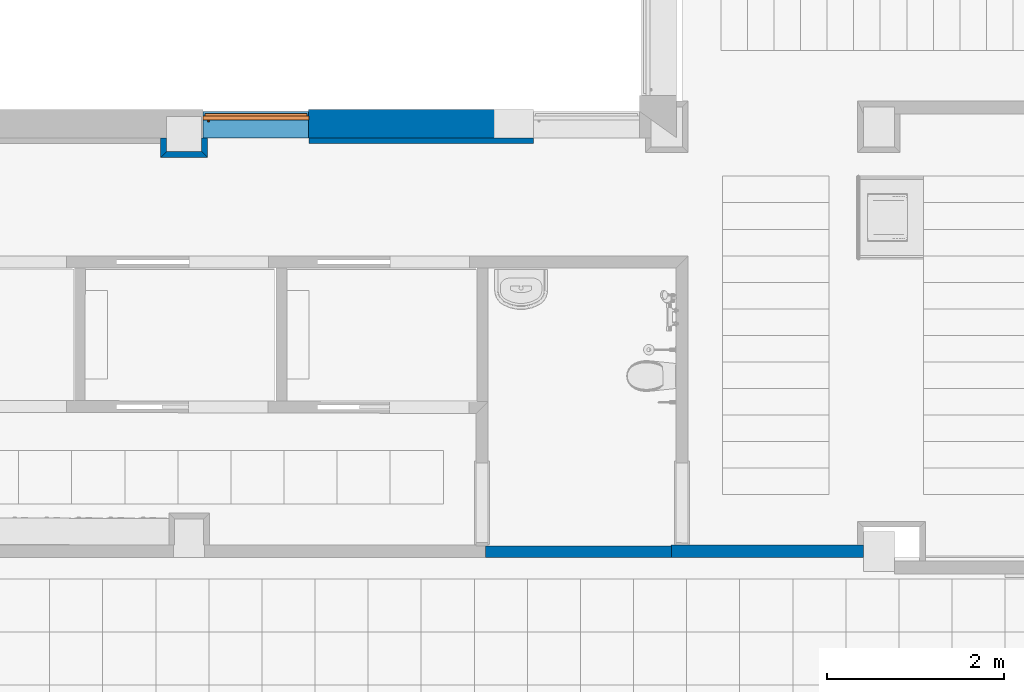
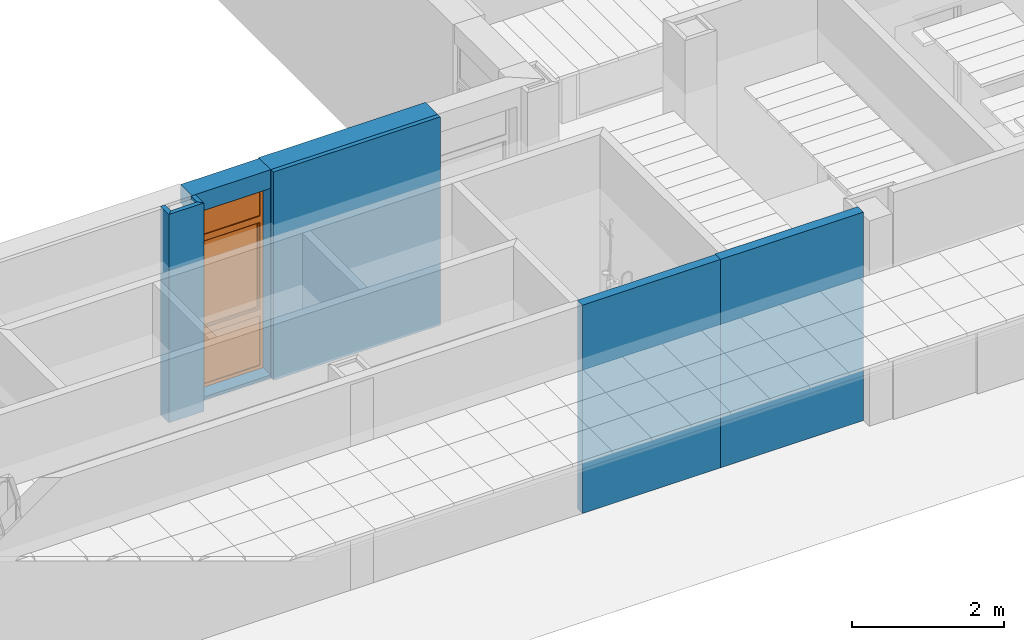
# One storey, part 31 of 68: 8 walls, 1 proxy, 1 opening.
"""IFC2X3 building model written with IfcOpenShell, lengths in millimetres."""

import ifcopenshell
import ifcopenshell.guid

model = None  # the IFC model being written
_history = None  # IfcOwnerHistory: only IFC2X3 demands one
_inside = {}  # id of a spatial element -> (the spatial element, [elements in it])
_under = {}  # id of a project, library or spatial element -> (it, [spatial elements below it])
_declared = {}  # id of a project -> (the project, [libraries it declares])
_typed = {}  # id of a type object -> (the type object, [elements of that type])
_made_of = {}  # id of a material, layer set ... -> (it, [elements and type objects made of it])


def new_model(schema):
    """Start an empty IFC model of exactly this schema.

    Asked for "IFC4X3", IfcOpenShell would pick the latest addendum, in which some entities
    have other attributes; the version numbers below select the first issue.
    IFC2X3 requires an IfcOwnerHistory on every rooted entity: one is made here for all.
    """
    global model, _history
    if schema == "IFC4X3":
        model = ifcopenshell.file(schema_version=(4, 3, 0, 0))
    else:
        model = ifcopenshell.file(schema=schema)
    _inside.clear()
    _under.clear()
    _declared.clear()
    _typed.clear()
    _made_of.clear()
    _history = None
    if model.schema == "IFC2X3":
        org = make("IfcOrganization", Name="unknown")
        user = make(
            "IfcPersonAndOrganization",
            ThePerson=make("IfcPerson", FamilyName="unknown"),
            TheOrganization=org,
        )
        app = make(
            "IfcApplication",
            ApplicationDeveloper=org,
            Version="unknown",
            ApplicationFullName="unknown",
            ApplicationIdentifier="unknown",
        )
        _history = make(
            "IfcOwnerHistory",
            OwningUser=user,
            OwningApplication=app,
            ChangeAction="ADDED",
            CreationDate=0,
        )
    return model


def make(cls, **values):
    """One entity of the class cls with the attributes given. An attribute that is None is left unset."""
    return model.create_entity(
        cls, **{name: value for name, value in values.items() if value is not None}
    )


def entity(cls, *values):
    """Any entity or typed value of the class cls, its attributes in the order of the schema. None: left unset."""
    e = model.create_entity(cls)
    for i, value in enumerate(values):
        if value is not None:
            e[i] = value
    return e


def rooted(cls, **values):
    """An entity with a GlobalId (a new one), such as an element, a storey or a relation."""
    return make(cls, GlobalId=ifcopenshell.guid.new(), OwnerHistory=_history, **values)


def si_unit(unit_type, name, prefix=None):
    """IfcSIUnit, for example si_unit("LENGTHUNIT", "METRE", prefix="MILLI")."""
    return make("IfcSIUnit", UnitType=unit_type, Prefix=prefix, Name=name)


def converted_unit(unit_type, name, factor, base, dimensions=None, offset=None):
    """IfcConversionBasedUnit, such as the inch: factor (a typed value) times the base unit."""
    return make(
        "IfcConversionBasedUnit"
        if offset is None
        else "IfcConversionBasedUnitWithOffset",
        ConversionOffset=offset,
        Dimensions=None
        if dimensions is None
        else entity("IfcDimensionalExponents", *dimensions),
        UnitType=unit_type,
        Name=name,
        ConversionFactor=make(
            "IfcMeasureWithUnit", ValueComponent=factor, UnitComponent=base
        ),
    )


def derived_unit(unit_type, elements):
    """IfcDerivedUnit: a product of units, each with its exponent."""
    return make(
        "IfcDerivedUnit",
        Elements=[
            make("IfcDerivedUnitElement", Unit=unit, Exponent=power)
            for unit, power in elements
        ],
        UnitType=unit_type,
    )


def money_unit(currency):
    """IfcMonetaryUnit."""
    return make("IfcMonetaryUnit", Currency=currency)


def assignment(units):
    """IfcUnitAssignment: the units of a project."""
    return None if units is None else make("IfcUnitAssignment", Units=units)


def point(xyz):
    """IfcCartesianPoint."""
    return None if xyz is None else make("IfcCartesianPoint", Coordinates=xyz)


def direction(xyz):
    """IfcDirection."""
    return None if xyz is None else make("IfcDirection", DirectionRatios=xyz)


def frame(location, z_axis=None, x_axis=None):
    """IfcAxis2Placement3D, a coordinate frame: its origin and axes. An axis left out is left unset."""
    return make(
        "IfcAxis2Placement3D",
        Location=point(location),
        Axis=direction(z_axis),
        RefDirection=direction(x_axis),
    )


def frame_2d(location, x_axis=None):
    """IfcAxis2Placement2D, a coordinate frame in the plane: its origin and x axis."""
    return make(
        "IfcAxis2Placement2D", Location=point(location), RefDirection=direction(x_axis)
    )


def origin_with_axes():
    """The frame at (0, 0, 0) with the z axis (0, 0, 1) and the x axis (1, 0, 0) written out."""
    return frame((0.0, 0.0, 0.0), z_axis=(0.0, 0.0, 1.0), x_axis=(1.0, 0.0, 0.0))


def origin_2d_with_axis():
    """The frame at (0, 0) in the plane with the x axis (1, 0) written out."""
    return frame_2d((0.0, 0.0), x_axis=(1.0, 0.0))


def place(relative_to, where):
    """IfcLocalPlacement: puts the frame where relative to a parent placement (None: the world)."""
    return make(
        "IfcLocalPlacement", PlacementRelTo=relative_to, RelativePlacement=where
    )


def context(
    kind, dimensions, precision=None, world=None, true_north=None, identifier=None
):
    """IfcGeometricRepresentationContext, for example the 3D "Model" context."""
    return make(
        "IfcGeometricRepresentationContext",
        ContextIdentifier=identifier,
        ContextType=kind,
        CoordinateSpaceDimension=dimensions,
        Precision=precision,
        WorldCoordinateSystem=world,
        TrueNorth=true_north,
    )


def subcontext(parent, identifier, kind, view, scale=None):
    """IfcGeometricRepresentationSubContext, for example "Body" below "Model"."""
    return make(
        "IfcGeometricRepresentationSubContext",
        ContextIdentifier=identifier,
        ContextType=kind,
        ParentContext=parent,
        TargetScale=scale,
        TargetView=view,
    )


def project(units=None, contexts=None):
    """IfcProject with its units and contexts."""
    return rooted(
        "IfcProject",
        Name="project",
        RepresentationContexts=contexts,
        UnitsInContext=assignment(units),
    )


def spatial(cls, under=None, at=None, **own):
    """A site, building, storey or space (cls), placed at a placement, below another one or the project."""
    s = rooted(cls, ObjectPlacement=at, **own)
    if under is not None:
        _under.setdefault(under.id(), (under, []))[1].append(s)
    return s


def polyline(points):
    """IfcPolyline through the points."""
    return make("IfcPolyline", Points=[point(p) for p in points])


def profile(cls, at=None, kind="AREA", **sizes):
    """A parametric profile (cls). Its sizes go by their IFC names, for example OverallWidth=200.0."""
    return make(cls, ProfileType=kind, Position=at, **sizes)


def rectangle(**sizes):
    """IfcRectangleProfileDef."""
    return profile("IfcRectangleProfileDef", **sizes)


def outline(outer, holes=None, kind="AREA"):
    """IfcArbitraryClosedProfileDef: a profile drawn as a closed curve; with holes, ...WithVoids."""
    if holes is None:
        return make("IfcArbitraryClosedProfileDef", ProfileType=kind, OuterCurve=outer)
    return make(
        "IfcArbitraryProfileDefWithVoids",
        ProfileType=kind,
        OuterCurve=outer,
        InnerCurves=holes,
    )


def extrude(swept, where, along, depth):
    """IfcExtrudedAreaSolid: the profile swept, set in the frame where, extruded along a direction by depth."""
    return make(
        "IfcExtrudedAreaSolid",
        SweptArea=swept,
        Position=where,
        ExtrudedDirection=direction(along),
        Depth=depth,
    )


def faces_of(points, faces, orient=None, outer=None):
    """IfcFace entities. A face is a list of loops; a loop is a list of indices into points, from 0.

    orient and outer hold one flag for each loop. By default every Orientation is true, the
    first loop of a face is its IfcFaceOuterBound and the others are IfcFaceBound.
    """
    made = []
    for i, loops in enumerate(faces):
        bounds = []
        for j, loop in enumerate(loops):
            is_outer = j == 0 if outer is None else outer[i][j]
            bounds.append(
                make(
                    "IfcFaceOuterBound" if is_outer else "IfcFaceBound",
                    Bound=make("IfcPolyLoop", Polygon=[points[k] for k in loop]),
                    Orientation=True if orient is None else orient[i][j],
                )
            )
        made.append(make("IfcFace", Bounds=bounds))
    return made


def open_shell(faces, orient=None, outer=None):
    """The faces of one IfcOpenShell. surface_model builds it on its shared points."""
    return ("IfcOpenShell", faces, orient, outer)


def faceted_brep(points, faces, orient=None, outer=None, voids=None):
    """IfcFacetedBrep: a solid bounded by flat faces; with voids (closed shells), ...WithVoids."""
    shared = [point(p) for p in points]
    hull = make("IfcClosedShell", CfsFaces=faces_of(shared, faces, orient, outer))
    if voids is None:
        return make("IfcFacetedBrep", Outer=hull)
    return make(
        "IfcFacetedBrepWithVoids",
        Outer=hull,
        Voids=[
            make(cls, CfsFaces=faces_of(shared, fs, o, b)) for cls, fs, o, b in voids
        ],
    )


def surface_model(cls, points, shells):
    """IfcFaceBasedSurfaceModel or IfcShellBasedSurfaceModel (cls): surfaces that need not close."""
    shared = [point(p) for p in points]
    made = [make(c, CfsFaces=faces_of(shared, fs, o, b)) for c, fs, o, b in shells]
    if cls == "IfcFaceBasedSurfaceModel":
        return make(cls, FbsmFaces=made)
    return make(cls, SbsmBoundary=made)


def shape(context_of_items, identifier, shape_type, items):
    """IfcShapeRepresentation: the items that make up one representation, for example the "Body"."""
    return make(
        "IfcShapeRepresentation",
        ContextOfItems=context_of_items,
        RepresentationIdentifier=identifier,
        RepresentationType=shape_type,
        Items=items,
    )


def source(mapping_origin, context_of_items, identifier, shape_type, items):
    """IfcRepresentationMap: a shape defined once, which mapped items show again and again."""
    return make(
        "IfcRepresentationMap",
        MappingOrigin=mapping_origin,
        MappedRepresentation=shape(context_of_items, identifier, shape_type, items),
    )


def transform(
    local_origin,
    x_axis=None,
    y_axis=None,
    z_axis=None,
    scale=None,
    scale2=None,
    scale3=None,
    uniform=True,
):
    """IfcCartesianTransformationOperator3D, or its non-uniform kind. x_axis, y_axis, z_axis: its Axis1, 2, 3."""
    if uniform:
        return make(
            "IfcCartesianTransformationOperator3D",
            Axis1=direction(x_axis),
            Axis2=direction(y_axis),
            LocalOrigin=point(local_origin),
            Scale=scale,
            Axis3=direction(z_axis),
        )
    return make(
        "IfcCartesianTransformationOperator3DnonUniform",
        Axis1=direction(x_axis),
        Axis2=direction(y_axis),
        LocalOrigin=point(local_origin),
        Scale=scale,
        Axis3=direction(z_axis),
        Scale2=scale2,
        Scale3=scale3,
    )


def mapped(mapping_source, mapping_target):
    """IfcMappedItem: shows the shape of a source again, moved by a transform."""
    return make(
        "IfcMappedItem", MappingSource=mapping_source, MappingTarget=mapping_target
    )


def material(Name=None, Category=None):
    """IfcMaterial."""
    return make("IfcMaterial", Name=Name, Category=Category)


def layer(
    of_material, thickness, ventilated=None, Name=None, Category=None, Priority=None
):
    """IfcMaterialLayer: one layer of a wall or slab, of a material (None: an air gap)."""
    return make(
        "IfcMaterialLayer",
        Material=of_material,
        LayerThickness=thickness,
        IsVentilated=ventilated,
        Name=Name,
        Category=Category,
        Priority=Priority,
    )


def layer_set(layers, Name=None):
    """IfcMaterialLayerSet."""
    return make("IfcMaterialLayerSet", MaterialLayers=layers, LayerSetName=Name)


def layer_usage(for_layer_set, set_direction, sense, offset, extent=None):
    """IfcMaterialLayerSetUsage: how a layer set lies in its element."""
    return make(
        "IfcMaterialLayerSetUsage",
        ForLayerSet=for_layer_set,
        LayerSetDirection=set_direction,
        DirectionSense=sense,
        OffsetFromReferenceLine=offset,
        ReferenceExtent=extent,
    )


def made_of(thing, what):
    """Note that an element or type object is made of a material, layer set ...; save() writes the relation."""
    if what is not None:
        _made_of.setdefault(what.id(), (what, []))[1].append(thing)
    return thing


def type_object(cls, material=None, **own):
    """A type object (cls), such as IfcWallType, which elements share."""
    return made_of(rooted(cls, **own), material)


def element(
    cls,
    number,
    at=None,
    inside=None,
    cuts=None,
    type_object=None,
    material=None,
    context=None,
    identifier="Body",
    shape_type=None,
    held_by="IfcProductDefinitionShape",
    body=None,
    shapes=None,
    **own,
):
    """One element of the class cls, such as IfcWall. Its Tag is "e" and its number.

    at: its placement. inside: the storey or other place that contains it. cuts: it is an
    opening in that element (IfcRelVoidsElement). A single representation is given by context,
    identifier, shape_type and body (its items); several are given by shapes. held_by: the class
    of the entity that holds the representations. save() writes the other relations.
    """
    e = rooted(cls, Tag="e%d" % number, ObjectPlacement=at, **own)
    if body is not None:
        shapes = [shape(context, identifier, shape_type, body)]
    if shapes is not None:
        e.Representation = make(held_by, Representations=shapes)
    if inside is not None:
        _inside.setdefault(inside.id(), (inside, []))[1].append(e)
    if cuts is not None:
        rooted(
            "IfcRelVoidsElement", RelatingBuildingElement=cuts, RelatedOpeningElement=e
        )
    if type_object is not None:
        _typed.setdefault(type_object.id(), (type_object, []))[1].append(e)
    return made_of(e, material)


def fill(opening, filler):
    """IfcRelFillsElement: the door or window that sits in an opening."""
    return rooted(
        "IfcRelFillsElement",
        RelatingOpeningElement=opening,
        RelatedBuildingElement=filler,
    )


def aggregate(whole, parts):
    """IfcRelAggregates: a whole, such as a stair, and the parts it consists of."""
    return rooted("IfcRelAggregates", RelatingObject=whole, RelatedObjects=parts)


def save(model, path):
    """Write the relations noted so far, then the file.

    IfcRelAggregates (storeys below a building ...), IfcRelContainedInSpatialStructure (elements
    in a storey), IfcRelDefinesByType, IfcRelAssociatesMaterial and IfcRelDeclares: one each for
    every whole, place, type object, material and project.
    """
    for whole, parts in _under.values():
        aggregate(whole, parts)
    for where, things in _inside.values():
        rooted(
            "IfcRelContainedInSpatialStructure",
            RelatedElements=things,
            RelatingStructure=where,
        )
    for kind, things in _typed.values():
        rooted("IfcRelDefinesByType", RelatedObjects=things, RelatingType=kind)
    for what, things in _made_of.values():
        rooted("IfcRelAssociatesMaterial", RelatedObjects=things, RelatingMaterial=what)
    for by, libraries in _declared.values():
        rooted("IfcRelDeclares", RelatingContext=by, RelatedDefinitions=libraries)
    model.write(path)


model = new_model("IFC2X3")

# Units and contexts
model_context = context("Model", 3, precision=0.01, world=origin_with_axes(), true_north=direction((0.0, 1.0)))
body_context = subcontext(model_context, "Body", "Model", "MODEL_VIEW")
ifc_project = project(units=[si_unit("LENGTHUNIT", "METRE", prefix="MILLI"), si_unit("AREAUNIT", "SQUARE_METRE"), si_unit("VOLUMEUNIT", "CUBIC_METRE"), converted_unit("PLANEANGLEUNIT", "DEGREE", entity("IfcPlaneAngleMeasure", 0.0174532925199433), si_unit("PLANEANGLEUNIT", "RADIAN"), dimensions=[0, 0, 0, 0, 0, 0, 0]), money_unit("USD"), converted_unit("TIMEUNIT", "Year", entity("IfcTimeMeasure", 31557600.0), si_unit("TIMEUNIT", "SECOND"), dimensions=[0, 0, 1, 0, 0, 0, 0]), si_unit("MASSUNIT", "GRAM", prefix="KILO"), si_unit("THERMODYNAMICTEMPERATUREUNIT", "DEGREE_CELSIUS"), si_unit("LUMINOUSINTENSITYUNIT", "LUMEN"), si_unit("ENERGYUNIT", "JOULE", prefix="MEGA"), derived_unit("THERMALCONDUCTANCEUNIT", [(si_unit("POWERUNIT", "WATT"), 1), (si_unit("LENGTHUNIT", "METRE"), -1), (si_unit("THERMODYNAMICTEMPERATUREUNIT", "KELVIN"), -1)]), derived_unit("SPECIFICHEATCAPACITYUNIT", [(si_unit("ENERGYUNIT", "JOULE"), 1), (si_unit("MASSUNIT", "GRAM", prefix="KILO"), -1), (si_unit("THERMODYNAMICTEMPERATUREUNIT", "KELVIN"), -1)]), derived_unit("MASSDENSITYUNIT", [(si_unit("MASSUNIT", "GRAM", prefix="KILO"), 1), (si_unit("VOLUMEUNIT", "CUBIC_METRE"), -1)])], contexts=[model_context])

# Site, building, storey
site_placement = place(None, origin_with_axes())
site = spatial("IfcSite", under=ifc_project, at=site_placement, Name="Sitio", CompositionType="ELEMENT")
building_placement = place(site_placement, origin_with_axes())
building = spatial("IfcBuilding", under=site, at=building_placement, Name="Construcción", CompositionType="ELEMENT")
storey_placement = place(building_placement, origin_with_axes())
storey = spatial("IfcBuildingStorey", under=building, at=storey_placement, Name="PLANTA 1ª", CompositionType="ELEMENT", Elevation=0.0)

# Wall, opening, proxy
ifc_material_1 = material(Name="ARQ_AM246_Arrebossat_De_Guix")
ifc_layer_1 = layer(ifc_material_1, 20.0, ventilated="UNKNOWN")
ifc_material_2 = material(Name="ARQ_CE217_Gero")
ifc_layer_2 = layer(ifc_material_2, 110.0, ventilated="UNKNOWN")
ifc_material_3 = material(Name="ARQ_AI031_Aillament_Poliestireno expandido EPS")
ifc_layer_3 = layer(ifc_material_3, 100.0, ventilated="UNKNOWN")
ifc_material_4 = material(Name="ARQ_CE218_Ceramic")
ifc_layer_4 = layer(ifc_material_4, 50.0, ventilated="UNKNOWN")
ifc_layer_5 = layer(ifc_material_1, 20.0, ventilated="UNKNOWN")
ifc_layer_set_1 = layer_set([ifc_layer_1, ifc_layer_2, ifc_layer_3, ifc_layer_4, ifc_layer_5], Name="façana pati CR3 (ampit)")
ifc_layer_usage_1 = layer_usage(ifc_layer_set_1, "AXIS2", "POSITIVE", -300.0000000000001)
wall_type_1 = type_object("IfcWallType", Name="façana pati CR3 (ampit) 300", PredefinedType="NOTDEFINED")
wall_1_placement = place(storey_placement, frame((-5841.109004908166, -12338.97582371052, 0.0), z_axis=(0.0, 0.0, 1.0), x_axis=(-1.0, 0.0, 0.0)))
wall_1 = element("IfcWallStandardCase", 1, at=wall_1_placement, inside=storey, type_object=wall_type_1, material=ifc_layer_usage_1, Name="MS-201", context=body_context, shape_type="SweptSolid", body=[
    extrude(outline(polyline([(0.0, -300.0000000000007), (1194.999999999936, -300.0000000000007), (1194.999999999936, 0.0), (0.0, 0.0), (0.0, -300.0000000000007)])), origin_with_axes(), (0.0, 0.0, 1.0), 3350.0),
])
opening_placement = place(wall_1_placement, frame((594.9999999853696, 0.0, 50.0), z_axis=(0.0, 0.0, 1.0), x_axis=(1.0, 0.0, 0.0)))
opening = element("IfcOpeningElement", 2, at=opening_placement, cuts=wall_1, Name="F01", context=body_context, shape_type="SweptSolid", body=[
    extrude(rectangle(XDim=1200.000000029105, YDim=3000.0, at=origin_2d_with_axis()), frame((0.0, -250.0, 1500.0), z_axis=(0.0, -1.0, 0.0), x_axis=(-1.0, 0.0, 0.0)), (0.0, 0.0, -1.0), 550.0),
    extrude(rectangle(XDim=1200.000000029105, YDim=3000.0, at=origin_2d_with_axis()), frame((0.0, -250.0, 1500.0), z_axis=(0.0, 1.0, 0.0), x_axis=(-1.0, 0.0, 0.0)), (0.0, 0.0, -1.0), 350.0000000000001),
])
building_element_proxy_type = type_object("IfcBuildingElementProxyType", Name="Ventana Vertical Multi-Faja 27", PredefinedType="NOTDEFINED")
shared_shape = source(origin_with_axes(), body_context, "Body", "SurfaceModel", [
    faceted_brep([(-575.0000000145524, 0.0, 925.0), (-550.0000000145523, 0.0, 925.0), (-550.0000000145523, 0.0, 850.0), (-550.0000000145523, 0.0, 50.00000000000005), (-600.0000000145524, 0.0, 50.00000000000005), (-600.0000000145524, 0.0, 2950.0), (-550.0000000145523, 0.0, 2950.0), (-550.0000000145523, 0.0, 2450.0), (-550.0000000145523, 0.0, 2375.0), (-575.0000000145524, 0.0, 2375.0), (-575.0000000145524, -25.00000000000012, 925.0), (-550.0000000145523, -25.00000000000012, 925.0), (-550.0000000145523, -25.00000000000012, 950.0000000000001), (-550.0000000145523, -50.00000000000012, 950.0000000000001), (-550.0000000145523, -50.00000000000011, 850.0), (-550.0000000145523, -50.00000000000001, 50.00000000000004), (-600.0000000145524, -50.00000000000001, 50.00000000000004), (-600.0000000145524, -50.00000000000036, 2950.0), (-550.0000000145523, -50.00000000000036, 2950.0), (-550.0000000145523, -50.0000000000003, 2450.0), (-550.0000000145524, -25.00000000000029, 2375.0), (-550.0000000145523, -50.00000000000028, 2350.0), (-550.0000000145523, -25.00000000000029, 2350.0), (-575.0000000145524, -25.00000000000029, 2375.0)], [[[0, 1, 2, 3, 4, 5, 6, 7, 8, 9]], [[0, 10, 11, 1]], [[11, 12, 13, 14, 2, 1]], [[3, 2, 14, 15]], [[4, 3, 15, 16]], [[5, 4, 16, 17]], [[6, 5, 17, 18]], [[7, 6, 18, 19]], [[20, 8, 7, 19, 21, 22]], [[20, 23, 9, 8]], [[9, 23, 10, 0]], [[22, 12, 11, 10, 23, 20]], [[22, 21, 13, 12]], [[17, 16, 15, 14, 13, 21, 19, 18]]]),
    faceted_brep([(575.0000000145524, 0.0, 925.0), (575.0000000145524, 0.0, 2375.0), (550.0000000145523, 0.0, 2375.0), (550.0000000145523, 0.0, 2450.0), (550.0000000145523, 0.0, 2950.0), (600.0000000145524, 0.0, 2950.0), (600.0000000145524, 0.0, 50.00000000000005), (550.0000000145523, 0.0, 50.00000000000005), (550.0000000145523, 0.0, 850.0), (550.0000000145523, 0.0, 925.0), (575.0000000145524, -25.00000000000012, 925.0), (575.0000000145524, -25.00000000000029, 2375.0), (550.0000000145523, -25.00000000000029, 2375.0), (550.0000000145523, -25.00000000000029, 2350.0), (550.0000000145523, -50.00000000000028, 2350.0), (550.0000000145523, -50.0000000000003, 2450.0), (550.0000000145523, -50.00000000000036, 2950.0), (600.0000000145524, -50.00000000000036, 2950.0), (600.0000000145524, -50.00000000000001, 50.00000000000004), (550.0000000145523, -50.00000000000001, 50.00000000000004), (550.0000000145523, -50.00000000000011, 850.0), (550.0000000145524, -25.00000000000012, 925.0), (550.0000000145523, -50.00000000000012, 950.0000000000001), (550.0000000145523, -25.00000000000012, 950.0000000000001)], [[[0, 1, 2, 3, 4, 5, 6, 7, 8, 9]], [[0, 10, 11, 1]], [[1, 11, 12, 2]], [[12, 13, 14, 15, 3, 2]], [[4, 3, 15, 16]], [[5, 4, 16, 17]], [[6, 5, 17, 18]], [[7, 6, 18, 19]], [[8, 7, 19, 20]], [[21, 9, 8, 20, 22, 23]], [[9, 21, 10, 0]], [[12, 11, 10, 21, 23, 13]], [[23, 22, 14, 13]], [[14, 22, 20, 19, 18, 17, 16, 15]]]),
    faceted_brep([(-550.0000000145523, -25.00000000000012, 950.0000000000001), (-550.0000000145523, -50.00000000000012, 950.0000000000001), (550.0000000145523, -50.00000000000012, 950.0000000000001), (550.0000000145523, -25.00000000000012, 950.0000000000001), (-550.0000000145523, -25.00000000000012, 925.0), (-550.0000000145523, 0.0, 925.0), (-550.0000000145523, 0.0, 850.0), (-550.0000000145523, -50.00000000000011, 850.0), (550.0000000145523, -50.00000000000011, 850.0), (550.0000000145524, -25.00000000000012, 925.0), (550.0000000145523, 0.0, 850.0), (550.0000000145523, 0.0, 925.0)], [[[0, 1, 2, 3]], [[4, 5, 6, 7, 1, 0]], [[1, 7, 8, 2]], [[9, 3, 2, 8, 10, 11]], [[9, 4, 0, 3]], [[5, 4, 9, 11]], [[11, 10, 6, 5]], [[6, 10, 8, 7]]]),
    faceted_brep([(-550.0000000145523, 0.0, 2375.0), (-550.0000000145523, 0.0, 2450.0), (550.0000000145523, 0.0, 2450.0), (550.0000000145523, 0.0, 2375.0), (-550.0000000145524, -25.00000000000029, 2375.0), (-550.0000000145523, -25.00000000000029, 2350.0), (-550.0000000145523, -50.00000000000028, 2350.0), (-550.0000000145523, -50.0000000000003, 2450.0), (550.0000000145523, -50.0000000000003, 2450.0), (550.0000000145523, -25.00000000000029, 2375.0), (550.0000000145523, -50.00000000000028, 2350.0), (550.0000000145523, -25.00000000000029, 2350.0)], [[[0, 1, 2, 3]], [[4, 5, 6, 7, 1, 0]], [[2, 1, 7, 8]], [[9, 3, 2, 8, 10, 11]], [[9, 4, 0, 3]], [[11, 5, 4, 9]], [[11, 10, 6, 5]], [[7, 6, 10, 8]]]),
    faceted_brep([(550.0000000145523, -50.00000000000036, 2950.0), (550.0000000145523, 0.0, 2950.0), (600.0000000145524, 0.0, 2950.0), (600.0000000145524, -50.00000000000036, 2950.0), (-550.0000000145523, -50.00000000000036, 2950.0), (-550.0000000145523, 0.0, 2950.0), (-600.0000000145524, 0.0, 2950.0), (-600.0000000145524, 0.0, 3000.0), (600.0000000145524, 0.0, 3000.0), (600.0000000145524, -50.00000000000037, 3000.0), (-600.0000000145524, -50.00000000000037, 3000.0), (-600.0000000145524, -50.00000000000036, 2950.0)], [[[0, 1, 2, 3]], [[4, 5, 1, 0]], [[1, 5, 6, 7, 8, 2]], [[3, 2, 8, 9]], [[0, 3, 9, 10, 11, 4]], [[11, 6, 5, 4]], [[10, 7, 6, 11]], [[9, 8, 7, 10]]]),
    faceted_brep([(-550.0000000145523, -50.00000000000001, 50.0), (-550.0000000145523, 0.0, 50.00000000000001), (-600.0000000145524, 0.0, 50.00000000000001), (-600.0000000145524, -50.00000000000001, 50.0), (550.0000000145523, -50.00000000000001, 50.0), (550.0000000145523, 0.0, 50.00000000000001), (600.0000000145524, 0.0, 50.00000000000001), (600.0000000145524, 0.0, 0.0), (-600.0000000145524, 0.0, 0.0), (-600.0000000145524, -50.0, 0.0), (600.0000000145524, -50.0, 0.0), (600.0000000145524, -50.00000000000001, 50.0)], [[[0, 1, 2, 3]], [[4, 5, 1, 0]], [[1, 5, 6, 7, 8, 2]], [[3, 2, 8, 9]], [[0, 3, 9, 10, 11, 4]], [[11, 6, 5, 4]], [[10, 7, 6, 11]], [[9, 8, 7, 10]]]),
    surface_model("IfcShellBasedSurfaceModel", [(-550.0000000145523, -35.0, 49.99999999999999), (550.0000000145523, -35.0, 49.99999999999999), (550.0000000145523, -35.0000000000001, 850.0), (-550.0000000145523, -35.0000000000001, 850.0)], [open_shell([[[0, 1, 2, 3]]])]),
    surface_model("IfcShellBasedSurfaceModel", [(-550.0000000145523, -15.0, 49.99999999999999), (-550.0000000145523, -15.0000000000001, 850.0), (550.0000000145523, -15.0000000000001, 850.0), (550.0000000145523, -15.0, 49.99999999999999)], [open_shell([[[0, 1, 2, 3]]])]),
    faceted_brep([(-521.5000000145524, -25.00000000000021, 1677.0), (-522.839745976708, -25.00000000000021, 1682.0), (-522.839745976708, -37.00000000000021, 1682.0), (-521.5000000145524, -37.00000000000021, 1677.0), (-521.5000000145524, -25.0000000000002, 1623.0), (-522.839745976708, -25.0000000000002, 1618.0), (-526.5000000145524, -25.0000000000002, 1614.339745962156), (-531.5000000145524, -25.0000000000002, 1613.0), (-543.5000000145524, -25.0000000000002, 1613.0), (-548.5000000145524, -25.0000000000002, 1614.339745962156), (-552.1602540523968, -25.0000000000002, 1618.0), (-553.5000000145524, -25.0000000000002, 1623.0), (-553.5000000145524, -25.00000000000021, 1677.0), (-552.1602540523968, -25.00000000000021, 1682.0), (-548.5000000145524, -25.00000000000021, 1685.660254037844), (-543.5000000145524, -25.00000000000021, 1687.0), (-531.5000000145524, -25.00000000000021, 1687.0), (-526.5000000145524, -25.00000000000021, 1685.660254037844), (-526.5000000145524, -37.00000000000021, 1685.660254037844), (-531.5000000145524, -37.00000000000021, 1687.0), (-543.5000000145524, -37.00000000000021, 1687.0), (-548.5000000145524, -37.00000000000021, 1685.660254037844), (-552.1602540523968, -37.00000000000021, 1682.0), (-553.5000000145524, -37.00000000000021, 1677.0), (-553.5000000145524, -37.0000000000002, 1623.0), (-552.1602540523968, -37.0000000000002, 1618.0), (-548.5000000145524, -37.0000000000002, 1614.339745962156), (-543.5000000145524, -37.0000000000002, 1613.0), (-531.5000000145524, -37.0000000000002, 1613.0), (-526.5000000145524, -37.0000000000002, 1614.339745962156), (-522.839745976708, -37.0000000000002, 1618.0), (-521.5000000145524, -37.0000000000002, 1623.0)], [[[0, 1, 2, 3]], [[0, 4, 5, 6, 7, 8, 9, 10, 11, 12, 13, 14, 15, 16, 17, 1]], [[1, 17, 18, 2]], [[3, 2, 18, 19, 20, 21, 22, 23, 24, 25, 26, 27, 28, 29, 30, 31]], [[4, 0, 3, 31]], [[5, 4, 31, 30]], [[6, 5, 30, 29]], [[7, 6, 29, 28]], [[8, 7, 28, 27]], [[9, 8, 27, 26]], [[10, 9, 26, 25]], [[11, 10, 25, 24]], [[12, 11, 24, 23]], [[13, 12, 23, 22]], [[14, 13, 22, 21]], [[15, 14, 21, 20]], [[16, 15, 20, 19]], [[17, 16, 19, 18]]]),
    faceted_brep([(-537.5000000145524, -37.0000000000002, 1663.5), (-544.2500000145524, -37.0000000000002, 1661.69134295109), (-544.2500000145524, -61.00000000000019, 1661.69134295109), (-537.5000000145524, -61.00000000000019, 1663.5), (-530.7500000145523, -37.0000000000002, 1661.69134295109), (-525.8086570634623, -37.0000000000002, 1656.75), (-524.0000000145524, -37.0000000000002, 1650.0), (-525.8086570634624, -37.0000000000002, 1643.25), (-530.7500000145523, -37.0000000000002, 1638.30865704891), (-537.5000000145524, -37.0000000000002, 1636.5), (-544.2500000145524, -37.0000000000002, 1638.30865704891), (-549.1913429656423, -37.0000000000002, 1643.25), (-551.0000000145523, -37.0000000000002, 1650.0), (-549.1913429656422, -37.0000000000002, 1656.75), (-549.1913429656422, -61.00000000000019, 1656.75), (-551.0000000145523, -61.00000000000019, 1650.0), (-549.1913429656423, -61.00000000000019, 1643.25), (-544.2500000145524, -61.00000000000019, 1638.30865704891), (-537.5000000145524, -61.00000000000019, 1636.5), (-530.7500000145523, -61.00000000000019, 1638.30865704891), (-525.8086570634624, -61.00000000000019, 1643.25), (-524.0000000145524, -61.00000000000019, 1650.0), (-525.8086570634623, -61.00000000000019, 1656.75), (-530.7500000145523, -61.00000000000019, 1661.69134295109)], [[[0, 1, 2, 3]], [[0, 4, 5, 6, 7, 8, 9, 10, 11, 12, 13, 1]], [[1, 13, 14, 2]], [[3, 2, 14, 15, 16, 17, 18, 19, 20, 21, 22, 23]], [[4, 0, 3, 23]], [[5, 4, 23, 22]], [[6, 5, 22, 21]], [[7, 6, 21, 20]], [[8, 7, 20, 19]], [[9, 8, 19, 18]], [[10, 9, 18, 17]], [[11, 10, 17, 16]], [[12, 11, 16, 15]], [[13, 12, 15, 14]]]),
    faceted_brep([(-526.0000000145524, -61.00000000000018, 1543.0), (-537.5000000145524, -61.00000000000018, 1540.0), (-549.0000000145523, -61.00000000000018, 1543.0), (-551.0000000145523, -61.00000000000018, 1546.0), (-551.0000000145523, -61.00000000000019, 1650.0), (-549.1913429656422, -61.00000000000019, 1656.75), (-544.2500000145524, -61.00000000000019, 1661.69134295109), (-537.5000000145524, -61.00000000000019, 1663.5), (-530.7500000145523, -61.00000000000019, 1661.69134295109), (-525.8086570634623, -61.00000000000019, 1656.75), (-524.0000000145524, -61.00000000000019, 1650.0), (-524.0000000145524, -61.00000000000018, 1546.0), (-525.9999999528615, -69.00000000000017, 1543.000000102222), (-537.4999999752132, -69.00000000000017, 1539.999999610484), (-548.9999999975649, -69.00000000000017, 1543.000000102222), (-551.0000003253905, -69.00000000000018, 1545.999999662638), (-551.0000003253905, -69.0000000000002, 1649.99999994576), (-549.1913430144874, -69.0000000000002, 1656.749999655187), (-544.2499996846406, -69.0000000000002, 1661.691342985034), (-537.4999999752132, -69.0000000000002, 1663.500000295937), (-530.7500002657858, -69.0000000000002, 1661.691342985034), (-525.808656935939, -69.0000000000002, 1656.749999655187), (-523.9999996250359, -69.0000000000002, 1649.99999994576), (-523.9999996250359, -69.00000000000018, 1545.999999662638), (-527.8625374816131, -71.99999956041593, 1545.61451963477), (-537.4999999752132, -71.99999956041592, 1543.100398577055), (-547.1374624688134, -71.99999956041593, 1545.61451963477), (-548.0000007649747, -71.99999956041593, 1546.908326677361), (-548.0000007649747, -71.99999956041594, 1649.605042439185), (-546.5016170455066, -71.99999956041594, 1655.197085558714), (-542.6970855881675, -71.99999956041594, 1659.001617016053), (-537.4999999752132, -71.99999956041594, 1660.394172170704), (-532.302914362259, -71.99999956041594, 1659.001617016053), (-528.4983829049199, -71.99999956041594, 1655.197085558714), (-526.9999991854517, -71.99999956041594, 1649.605042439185), (-526.9999991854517, -71.99999956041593, 1546.908326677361)], [[[0, 1, 2, 3, 4, 5, 6, 7, 8, 9, 10, 11]], [[1, 0, 12, 13]], [[2, 1, 13, 14]], [[3, 2, 14, 15]], [[4, 3, 15, 16]], [[5, 4, 16, 17]], [[6, 5, 17, 18]], [[7, 6, 18, 19]], [[8, 7, 19, 20]], [[9, 8, 20, 21]], [[10, 9, 21, 22]], [[11, 10, 22, 23]], [[0, 11, 23, 12]], [[13, 12, 24, 25]], [[14, 13, 25, 26]], [[15, 14, 26, 27]], [[16, 15, 27, 28]], [[17, 16, 28, 29]], [[18, 17, 29, 30]], [[19, 18, 30, 31]], [[20, 19, 31, 32]], [[21, 20, 32, 33]], [[22, 21, 33, 34]], [[23, 22, 34, 35]], [[12, 23, 35, 24]], [[26, 25, 24, 35, 34, 33, 32, 31, 30, 29, 28, 27]]]),
    faceted_brep([(-525.0000000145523, -25.00000000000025, 2325.0), (-525.0000000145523, 24.99999999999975, 2325.0), (-575.0000000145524, 24.99999999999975, 2325.0), (-575.0000000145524, -25.00000000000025, 2325.0), (-525.0000000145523, -25.00000000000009, 975.0000000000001), (-525.0000000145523, 24.99999999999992, 975.0000000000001), (-575.0000000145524, 24.99999999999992, 975.0000000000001), (-575.0000000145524, -25.00000000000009, 975.0000000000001)], [[[0, 1, 2, 3]], [[4, 5, 1, 0]], [[1, 5, 6, 2]], [[3, 2, 6, 7]], [[0, 3, 7, 4]], [[7, 6, 5, 4]]]),
    faceted_brep([(525.0000000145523, -25.00000000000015, 975.0000000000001), (525.0000000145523, 24.99999999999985, 975.0000000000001), (575.0000000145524, 24.99999999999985, 975.0000000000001), (575.0000000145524, -25.00000000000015, 975.0000000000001), (525.0000000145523, -25.00000000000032, 2325.0), (525.0000000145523, 24.99999999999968, 2325.0), (575.0000000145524, 24.99999999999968, 2325.0), (575.0000000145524, -25.00000000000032, 2325.0)], [[[0, 1, 2, 3]], [[4, 5, 1, 0]], [[1, 5, 6, 2]], [[3, 2, 6, 7]], [[0, 3, 7, 4]], [[7, 6, 5, 4]]]),
    faceted_brep([(575.0000000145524, -25.00000000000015, 925.0), (575.0000000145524, 24.99999999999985, 925.0), (575.0000000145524, 24.99999999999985, 975.0000000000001), (575.0000000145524, -25.00000000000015, 975.0000000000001), (-575.0000000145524, -25.00000000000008, 925.0), (-575.0000000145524, 24.99999999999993, 925.0), (-575.0000000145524, 24.99999999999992, 975.0000000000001), (-525.0000000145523, 24.99999999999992, 975.0000000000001), (525.0000000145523, 24.99999999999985, 975.0000000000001), (525.0000000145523, -25.00000000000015, 975.0000000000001), (-525.0000000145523, -25.00000000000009, 975.0000000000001), (-575.0000000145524, -25.00000000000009, 975.0000000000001)], [[[0, 1, 2, 3]], [[4, 5, 1, 0]], [[1, 5, 6, 7, 8, 2]], [[3, 2, 8, 9]], [[0, 3, 9, 10, 11, 4]], [[11, 6, 5, 4]], [[10, 7, 6, 11]], [[9, 8, 7, 10]]]),
    faceted_brep([(-575.0000000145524, -25.00000000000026, 2375.0), (-575.0000000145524, 24.99999999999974, 2375.0), (-575.0000000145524, 24.99999999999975, 2325.0), (-575.0000000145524, -25.00000000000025, 2325.0), (575.0000000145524, -25.00000000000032, 2375.0), (575.0000000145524, 24.99999999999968, 2375.0), (575.0000000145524, 24.99999999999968, 2325.0), (525.0000000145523, 24.99999999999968, 2325.0), (-525.0000000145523, 24.99999999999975, 2325.0), (-525.0000000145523, -25.00000000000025, 2325.0), (525.0000000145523, -25.00000000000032, 2325.0), (575.0000000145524, -25.00000000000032, 2325.0)], [[[0, 1, 2, 3]], [[4, 5, 1, 0]], [[1, 5, 6, 7, 8, 2]], [[3, 2, 8, 9]], [[0, 3, 9, 10, 11, 4]], [[11, 6, 5, 4]], [[10, 7, 6, 11]], [[9, 8, 7, 10]]]),
    surface_model("IfcShellBasedSurfaceModel", [(-525.0000000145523, -10.00000000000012, 975.0000000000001), (525.0000000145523, -10.00000000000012, 975.0000000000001), (525.0000000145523, -10.00000000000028, 2325.0), (-525.0000000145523, -10.00000000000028, 2325.0)], [open_shell([[[0, 1, 2, 3]]])]),
    surface_model("IfcShellBasedSurfaceModel", [(-525.0000000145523, 9.999999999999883, 975.0000000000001), (-525.0000000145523, 9.99999999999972, 2325.0), (525.0000000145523, 9.99999999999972, 2325.0), (525.0000000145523, 9.999999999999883, 975.0000000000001)], [open_shell([[[0, 1, 2, 3]]])]),
    surface_model("IfcShellBasedSurfaceModel", [(-550.0000000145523, -35.0000000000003, 2450.0), (550.0000000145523, -35.0000000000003, 2450.0), (550.0000000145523, -35.00000000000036, 2950.0), (-550.0000000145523, -35.00000000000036, 2950.0)], [open_shell([[[0, 1, 2, 3]]])]),
    surface_model("IfcShellBasedSurfaceModel", [(-550.0000000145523, -15.0000000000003, 2450.0), (-550.0000000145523, -15.00000000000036, 2950.0), (550.0000000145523, -15.00000000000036, 2950.0), (550.0000000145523, -15.0000000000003, 2450.0)], [open_shell([[[0, 1, 2, 3]]])]),
])
proxy_placement = place(opening_placement, frame((600.0000000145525, 0.0, 0.0), z_axis=(0.0, 0.0, 1.0), x_axis=(-1.0, 0.0, 0.0)))
proxy = element("IfcBuildingElementProxy", 3, at=proxy_placement, inside=storey, type_object=building_element_proxy_type, Name="F01", context=body_context, shape_type="MappedRepresentation", body=[
    mapped(shared_shape, transform((600.0000000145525, 250.0, 0.0))),
])
fill(opening, proxy)

# Walls
ifc_layer_6 = layer(ifc_material_2, 150.0, ventilated="UNKNOWN")
ifc_layer_7 = layer(ifc_material_3, 100.0, ventilated="UNKNOWN")
ifc_layer_8 = layer(ifc_material_4, 50.0, ventilated="UNKNOWN")
ifc_layer_9 = layer(ifc_material_1, 20.0, ventilated="UNKNOWN")
ifc_layer_set_2 = layer_set([ifc_layer_6, ifc_layer_7, ifc_layer_8, ifc_layer_9], Name="façana pati CR3")
ifc_layer_usage_2 = layer_usage(ifc_layer_set_2, "AXIS2", "POSITIVE", -320.0)
wall_type_2 = type_object("IfcWallType", Name="façana pati CR3 320", PredefinedType="NOTDEFINED")
wall_2_placement = place(storey_placement, frame((-3301.109004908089, -12338.97582371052, 0.0), z_axis=(0.0, 0.0, 1.0), x_axis=(-1.0, 0.0, 0.0)))
element("IfcWallStandardCase", 4, at=wall_2_placement, inside=storey, type_object=wall_type_2, material=ifc_layer_usage_2, Name="MS-201", context=body_context, shape_type="SweptSolid", body=[
    extrude(outline(polyline([(0.0, -320.0000000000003), (2540.000000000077, -320.0000000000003), (2540.000000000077, 0.0), (0.0, 0.0), (0.0, -320.0000000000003)])), origin_with_axes(), (0.0, 0.0, 1.0), 3350.0),
])
ifc_material_5 = material(Name="ARQ_FU093_Panellat_HPL")
ifc_layer_10 = layer(ifc_material_5, 6.0, ventilated="UNKNOWN")
ifc_material_6 = material(Name="ARQ_EN271_Camara_Aire")
ifc_layer_11 = layer(ifc_material_6, 6.0, ventilated="UNKNOWN")
ifc_material_7 = material(Name="Panel de Yeso Laminado")
ifc_layer_12 = layer(ifc_material_7, 13.0, ventilated="UNKNOWN")
ifc_material_8 = material(Name="ARQ_AI033_Aillament_Llana_De_Roca")
ifc_layer_13 = layer(ifc_material_8, 40.0, ventilated="UNKNOWN")
ifc_layer_set_3 = layer_set([ifc_layer_10, ifc_layer_11, ifc_layer_12, ifc_layer_13], Name="Pladur Tras 40 / 1N +HPL")
ifc_layer_usage_3 = layer_usage(ifc_layer_set_3, "AXIS2", "POSITIVE", 0.0)
wall_type_3 = type_object("IfcWallType", Name="Pladur Tras 40 / 1N +HPL 65", PredefinedType="NOTDEFINED")
wall_3_placement = place(storey_placement, frame((-5836.109004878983, -12403.97582371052, 0.0), z_axis=(0.0, 0.0, 1.0), x_axis=(1.0, 0.0, 0.0)))
element("IfcWallStandardCase", 5, at=wall_3_placement, inside=storey, type_object=wall_type_3, material=ifc_layer_usage_3, Name="MS-217", context=body_context, shape_type="SweptSolid", body=[
    extrude(outline(polyline([(0.0, 0.0), (2534.999999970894, 0.0), (2534.999999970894, 64.9999999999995), (0.0, 64.9999999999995), (0.0, 0.0)])), origin_with_axes(), (0.0, 0.0, 1.0), 3350.0),
])
ifc_layer_usage_4 = layer_usage(ifc_layer_set_3, "AXIS2", "POSITIVE", -65.0)
wall_4_placement = place(storey_placement, frame((-7450.394198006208, -12338.97582371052, 0.0), z_axis=(0.0, 0.0, 1.0), x_axis=(0.0, -1.0, 0.0)))
element("IfcWallStandardCase", 6, at=wall_4_placement, inside=storey, type_object=wall_type_3, material=ifc_layer_usage_4, Name="MS-205", context=body_context, shape_type="SweptSolid", body=[
    extrude(outline(polyline([(0.0, -65.0000000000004), (220.5848311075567, -65.0000000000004), (155.5848311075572, 0.0), (0.0, 0.0), (0.0, -65.0000000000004)])), origin_with_axes(), (0.0, 0.0, 1.0), 3350.0),
])
ifc_layer_usage_5 = layer_usage(ifc_layer_set_3, "AXIS2", "POSITIVE", -65.0)
wall_5_placement = place(storey_placement, frame((-7450.394198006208, -12494.56065481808, 0.0), z_axis=(0.0, 0.0, 1.0), x_axis=(1.0, 0.0, 0.0)))
element("IfcWallStandardCase", 7, at=wall_5_placement, inside=storey, type_object=wall_type_3, material=ifc_layer_usage_5, Name="MS-206", context=body_context, shape_type="SweptSolid", body=[
    extrude(outline(polyline([(-65.0000000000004, -64.9999999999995), (465.0012945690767, -64.9999999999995), (400.0012945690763, 0.0), (0.0, 0.0), (-65.0000000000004, -64.9999999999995)])), origin_with_axes(), (0.0, 0.0, 1.0), 3350.0),
])
ifc_layer_usage_6 = layer_usage(ifc_layer_set_3, "AXIS2", "POSITIVE", -65.0)
wall_6_placement = place(storey_placement, frame((-7050.392903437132, -12494.56065481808, 0.0), z_axis=(0.0, 0.0, 1.0), x_axis=(0.0, 1.0, 0.0)))
element("IfcWallStandardCase", 8, at=wall_6_placement, inside=storey, type_object=wall_type_3, material=ifc_layer_usage_6, Name="MS-207", context=body_context, shape_type="SweptSolid", body=[
    extrude(outline(polyline([(-64.9999999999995, -65.0000000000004), (155.5848311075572, -65.0000000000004), (155.5848311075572, 0.0), (0.0, 0.0), (-64.9999999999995, -65.0000000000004)])), origin_with_axes(), (0.0, 0.0, 1.0), 3350.0),
])
ifc_layer_14 = layer(ifc_material_5, 6.0, ventilated="UNKNOWN")
ifc_layer_15 = layer(ifc_material_6, 6.0, ventilated="UNKNOWN")
ifc_layer_16 = layer(ifc_material_7, 13.0, ventilated="UNKNOWN")
ifc_layer_17 = layer(ifc_material_7, 13.0, ventilated="UNKNOWN")
ifc_layer_18 = layer(ifc_material_8, 70.0, ventilated="UNKNOWN")
ifc_layer_19 = layer(ifc_material_7, 13.0, ventilated="UNKNOWN")
ifc_layer_20 = layer(ifc_material_7, 13.0, ventilated="UNKNOWN")
ifc_layer_21 = layer(ifc_material_6, 6.0, ventilated="UNKNOWN")
ifc_layer_22 = layer(ifc_material_5, 6.0, ventilated="UNKNOWN")
ifc_layer_set_4 = layer_set([ifc_layer_14, ifc_layer_15, ifc_layer_16, ifc_layer_17, ifc_layer_18, ifc_layer_19, ifc_layer_20, ifc_layer_21, ifc_layer_22], Name="CR Pladur 70 HPL 2 cares")
ifc_layer_usage_7 = layer_usage(ifc_layer_set_4, "AXIS2", "POSITIVE", 0.0)
wall_type_4 = type_object("IfcWallType", Name="CR Pladur 70 HPL 2 cares 146", PredefinedType="NOTDEFINED")
wall_7_placement = place(storey_placement, frame((-1743.327053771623, -17083.97582371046, 0.0), z_axis=(0.0, 0.0, 1.0), x_axis=(1.0, 0.0, 0.0)))
element("IfcWallStandardCase", 9, at=wall_7_placement, inside=storey, type_object=wall_type_4, material=ifc_layer_usage_7, Name="MS-211", context=body_context, shape_type="SweptSolid", body=[
    extrude(outline(polyline([(0.0, 0.0), (2172.21810142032, 0.0), (2172.21810142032, 146.0000000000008), (0.0, 146.0000000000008), (0.0, 0.0)])), origin_with_axes(), (0.0, 0.0, 1.0), 3350.0),
])
ifc_layer_23 = layer(ifc_material_5, 6.0, ventilated="UNKNOWN")
ifc_layer_24 = layer(ifc_material_6, 6.0, ventilated="UNKNOWN")
ifc_layer_25 = layer(ifc_material_7, 13.0, ventilated="UNKNOWN")
ifc_layer_26 = layer(ifc_material_7, 13.0, ventilated="UNKNOWN")
ifc_layer_27 = layer(ifc_material_8, 70.0, ventilated="UNKNOWN")
ifc_material_9 = material(Name="ARQ_CG063_Guix_Laminat_Hydro")
ifc_layer_28 = layer(ifc_material_9, 13.0, ventilated="UNKNOWN")
ifc_layer_29 = layer(ifc_material_9, 13.0, ventilated="UNKNOWN")
ifc_layer_set_5 = layer_set([ifc_layer_23, ifc_layer_24, ifc_layer_25, ifc_layer_26, ifc_layer_27, ifc_layer_28, ifc_layer_29], Name="CR Pladur 70 mixte HPL 1")
ifc_layer_usage_8 = layer_usage(ifc_layer_set_5, "AXIS2", "POSITIVE", 0.0)
wall_type_5 = type_object("IfcWallType", Name="CR Pladur 70 mixte HPL 1 134", PredefinedType="NOTDEFINED")
wall_8_placement = place(storey_placement, frame((-3842.408702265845, -17083.97582371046, 0.0), z_axis=(0.0, 0.0, 1.0), x_axis=(1.0, 0.0, 0.0)))
element("IfcWallStandardCase", 10, at=wall_8_placement, inside=storey, type_object=wall_type_5, material=ifc_layer_usage_8, Name="MS-211", context=body_context, shape_type="SweptSolid", body=[
    extrude(outline(polyline([(0.0, 0.0), (2099.189549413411, 0.0), (2099.189549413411, 134.0000000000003), (0.0, 134.0000000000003), (0.0, 0.0)])), origin_with_axes(), (0.0, 0.0, 1.0), 3350.0),
])

save(model, "model.ifc")
